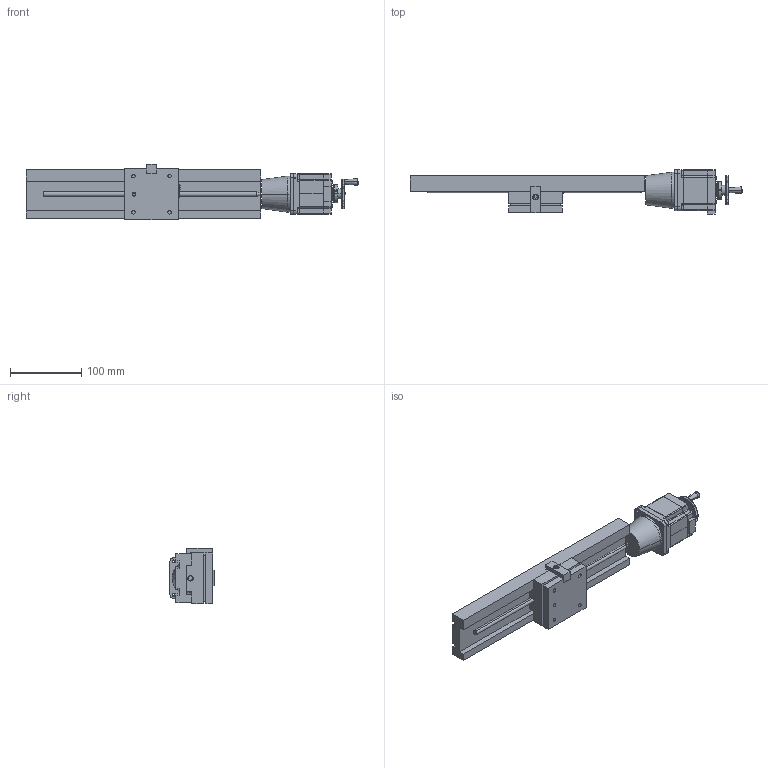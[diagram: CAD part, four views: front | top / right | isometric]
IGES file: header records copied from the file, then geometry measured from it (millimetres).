
Start section: Comment
Global section: file name: 6559 .igs; native system:  By Spatial Corp.; preprocessor: XPlus PS/IGES 3.0; author: Author; organization: Title; date: 20190214.080101; units: inch
Bounding box: 467.33 x 62.31 x 77.48 mm (x, y, z)
Surface area: 179980.1 mm2 (no closed solid volume)
Topology: 0 solids, 0 shells, 2394 faces, 11644 edges, 11642 vertices
Faces by surface type: extrusion 1583, revolution 811
